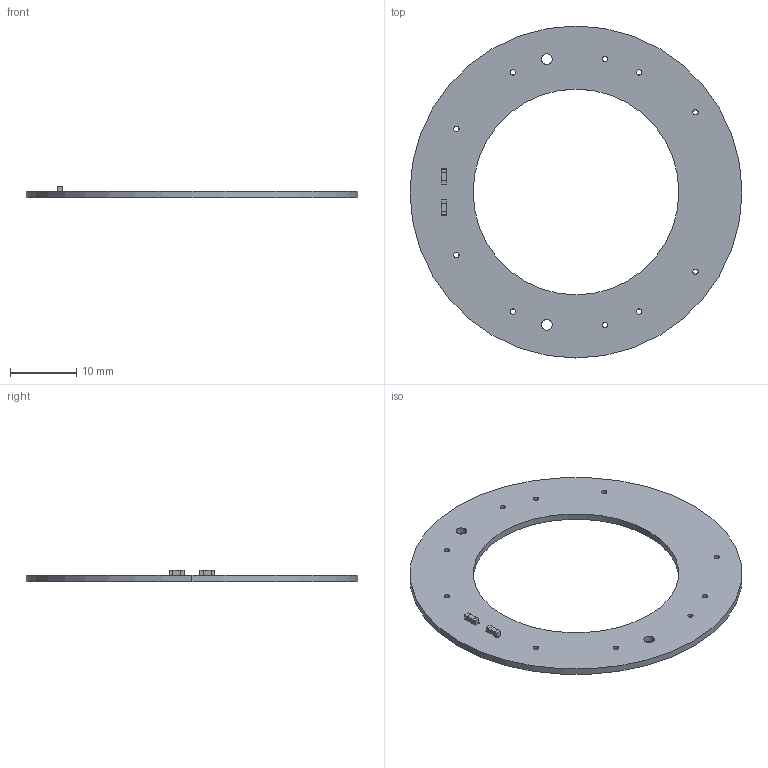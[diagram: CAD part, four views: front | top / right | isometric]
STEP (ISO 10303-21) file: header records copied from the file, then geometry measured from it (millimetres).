
FILE_DESCRIPTION (( 'STEP AP214' ), '1' );
FILE_NAME ('033_2018_0001_(50mm_B5_Sensor_RearCon_3D).STEP', '2024-11-07T12:16:26', ( '' ), ( '' ), 'SwSTEP 2.0', 'SolidWorks 2024', '' );
FILE_SCHEMA (( 'AUTOMOTIVE_DESIGN' ));
Length unit declared in the file: millimetre
Products named in the file (3): 033_2018_0001_(50mm_B5_Sensor_RearCon_3D); 013-1038_0001_Cmodel; 010-0170_0001_(50mm_Type6-5_Rotary_PCB)
Assembly tree (3 placements, depth 2):
  033_2018_0001_(50mm_B5_Sensor_RearCon_3D)
    010-0170_0001_(50mm_Type6-5_Rotary_PCB)
    013-1038_0001_Cmodel  x2
Bounding box: 50 x 50 x 1.8 mm (x, y, z)
Volume: 1202.4 mm3; surface area: 2711.4 mm2
Topology: 7 solids, 7 shells, 86 faces, 204 edges, 136 vertices
Faces by surface type: plane 58, cylinder 28
Entity records: 2958 total; most frequent: DIRECTION 376, CARTESIAN_POINT 356, ORIENTED_EDGE 336, EDGE_CURVE 168, AXIS2_PLACEMENT_3D 132, VECTOR 112, LINE 112, VERTEX_POINT 112
